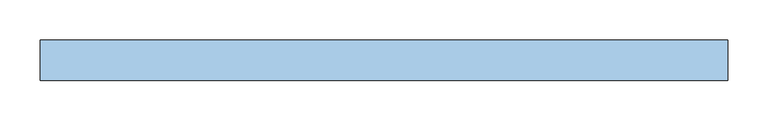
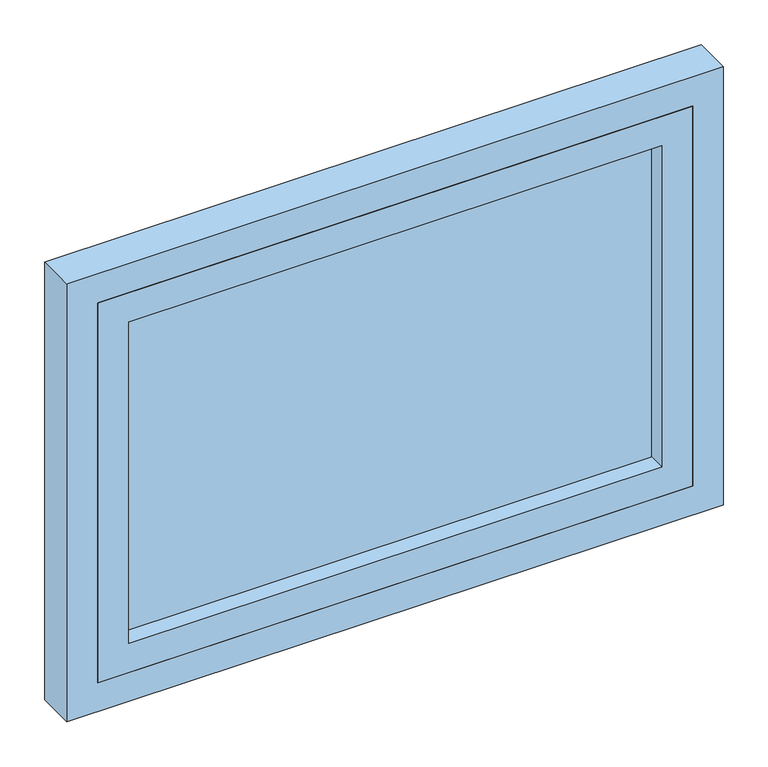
"""IFC4 building model written with IfcOpenShell, lengths in millimetres: window geometry, VENT_ALUM_PROY : VD-13 / PROY BAÑO 0.85 X 0.6."""

from ifc_helpers import new_model, si_unit, frame, origin, place, context, project, spatial, polyline, outline, extrude, source, transform, mapped, element, save


def window_9e7b9ec3(model_context):
    return source(origin(), model_context, "Body", "SweptSolid", [
        extrude(outline(polyline([(1360.0, -385.0), (840.0, -385.0), (840.0, 385.0), (1360.0, 385.0), (1360.0, -385.0)]), holes=[polyline([(880.0, -345.0), (1320.0, -345.0), (1320.0, 345.0), (880.0, 345.0), (880.0, -345.0)])]), frame((0.0, -25.0, 0.0), z_axis=(0.0, 1.0, 0.0), x_axis=(0.0, 0.0, 1.0)), (0.0, 0.0, 1.0), 50.0),
        extrude(outline(polyline([(345.0, 3.0), (345.0, -3.0), (-345.0, -3.0), (-345.0, 3.0), (345.0, 3.0)])), frame((0.0, 0.0, 880.0), z_axis=(0.0, 0.0, 1.0), x_axis=(1.0, 0.0, 0.0)), (0.0, 0.0, 1.0), 440.0),
        extrude(outline(polyline([(1400.0, -425.0), (800.0, -425.0), (800.0, 425.0), (1400.0, 425.0), (1400.0, -425.0)]), holes=[polyline([(840.0, -385.0), (1360.0, -385.0), (1360.0, 385.0), (840.0, 385.0), (840.0, -385.0)])]), frame((0.0, -25.0, 0.0), z_axis=(0.0, 1.0, 0.0), x_axis=(0.0, 0.0, 1.0)), (0.0, 0.0, 1.0), 50.0),
    ])


if __name__ == "__main__":
    model = new_model("IFC4")
    model_context = context("Model", 3, world=origin())
    ifc_project = project(units=[si_unit("LENGTHUNIT", "METRE", prefix="MILLI")], contexts=[model_context])
    site = spatial("IfcSite", under=ifc_project)
    building = spatial("IfcBuilding", under=site)
    placement = place(None, origin())
    window_shape = window_9e7b9ec3(model_context)
    element("IfcWindow", 1, ObjectType="VENT_ALUM_PROY : VD-13 / PROY BAÑO 0.85 X 0.6", at=placement, inside=building, context=model_context, shape_type="MappedRepresentation", body=[
        mapped(window_shape, transform((0.0, 0.0, 0.0), x_axis=(1.0, 0.0, 0.0), y_axis=(0.0, 1.0, 0.0), z_axis=(0.0, 0.0, 1.0))),
    ])
    save(model, "model.ifc")
